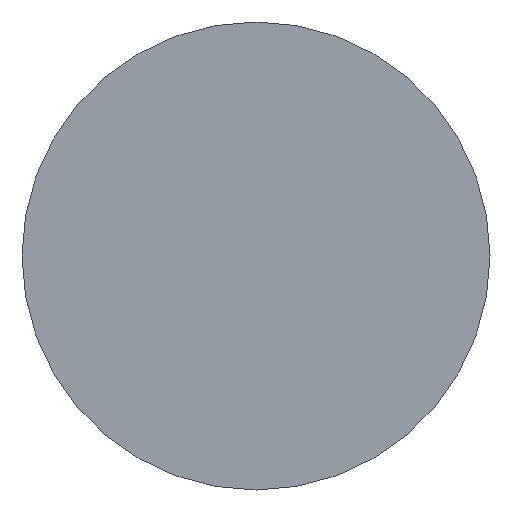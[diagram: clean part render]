
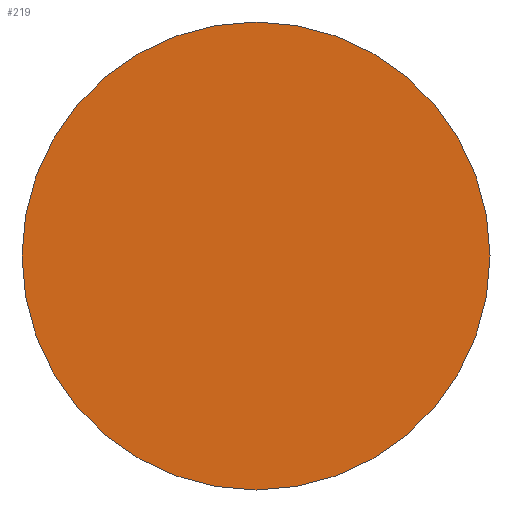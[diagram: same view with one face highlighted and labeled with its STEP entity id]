
A CAD part, left-side view. The second image highlights one B-rep face of the part: STEP entity #219.
In plain terms, the highlighted planar face has unit normal (-1, 0, 0).
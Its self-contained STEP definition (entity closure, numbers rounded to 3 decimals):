
#5 = VERTEX_POINT ( 'NONE', #12 ) ;
#12 = CARTESIAN_POINT ( 'NONE',  ( 0., -8., 0. ) ) ;
#21 = PLANE ( 'NONE',  #97 ) ;
#37 = DIRECTION ( 'NONE',  ( 1., 0., 0. ) ) ;
#45 = DIRECTION ( 'NONE',  ( 0., -1., 0. ) ) ;
#67 = AXIS2_PLACEMENT_3D ( 'NONE', #203, #37, #140 ) ;
#68 = ORIENTED_EDGE ( 'NONE', *, *, #255, .F. ) ;
#70 = CARTESIAN_POINT ( 'NONE',  ( 0., 0., 0. ) ) ;
#77 = CARTESIAN_POINT ( 'NONE',  ( 0., 0., 0. ) ) ;
#80 = DIRECTION ( 'NONE',  ( 0., 1., 0. ) ) ;
#97 = AXIS2_PLACEMENT_3D ( 'NONE', #77, #272, #45 ) ;
#105 = FACE_OUTER_BOUND ( 'NONE', #237, .T. ) ;
#134 = AXIS2_PLACEMENT_3D ( 'NONE', #70, #231, #80 ) ;
#135 = CARTESIAN_POINT ( 'NONE',  ( 0., 8., 0. ) ) ;
#140 = DIRECTION ( 'NONE',  ( 0., 1., 0. ) ) ;
#162 = ORIENTED_EDGE ( 'NONE', *, *, #192, .F. ) ;
#192 = EDGE_CURVE ( 'NONE', #259, #5, #242, .T. ) ;
#203 = CARTESIAN_POINT ( 'NONE',  ( 0., 0., 0. ) ) ;
#219 = ADVANCED_FACE ( 'NONE', ( #105 ), #21, .T. ) ;
#231 = DIRECTION ( 'NONE',  ( 1., 0., 0. ) ) ;
#237 = EDGE_LOOP ( 'NONE', ( #162, #68 ) ) ;
#240 = CIRCLE ( 'NONE', #67, 8. ) ;
#242 = CIRCLE ( 'NONE', #134, 8. ) ;
#255 = EDGE_CURVE ( 'NONE', #5, #259, #240, .T. ) ;
#259 = VERTEX_POINT ( 'NONE', #135 ) ;
#272 = DIRECTION ( 'NONE',  ( -1., 0., 0. ) ) ;
